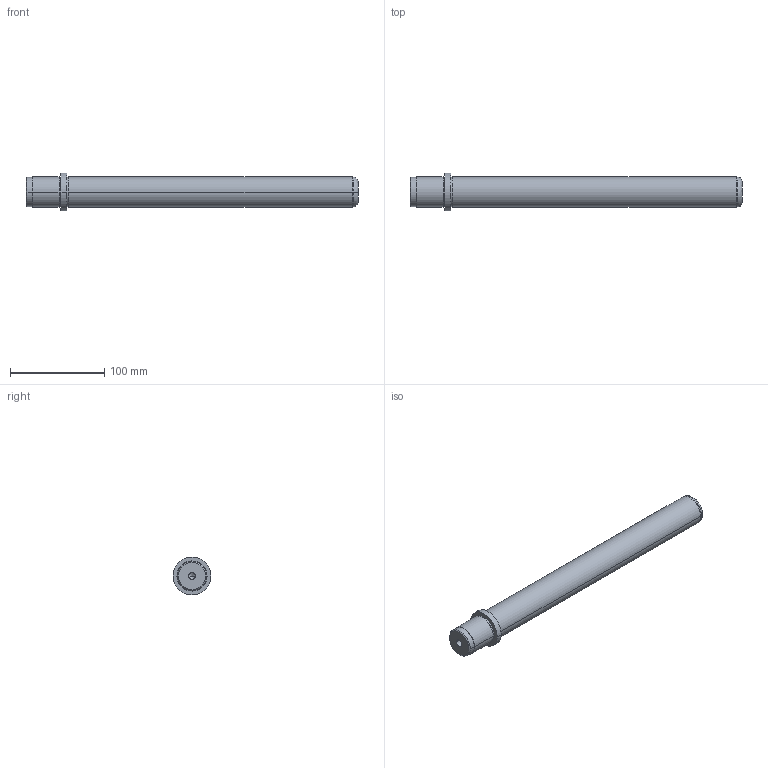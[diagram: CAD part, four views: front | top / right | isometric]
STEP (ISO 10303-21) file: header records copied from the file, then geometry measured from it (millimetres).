
FILE_DESCRIPTION( ( 'STEP AP203' ), '1' );
FILE_NAME( 'D:/Delta 3 D/D00/D00 - 32x315x37.step', '2003-01-02T07:06:13', ( ' ' ), ( ' ' ), 'XStep 1.0', ' ', ' ' );
FILE_SCHEMA( ( 'CONFIG_CONTROL_DESIGN' ) );
Length unit declared in the file: metre
Products named in the file (1): 1
Bounding box: 352 x 40 x 40 mm (x, y, z)
Volume: 282619.3 mm3; surface area: 39085.4 mm2
Topology: 1 solids, 1 shells, 39 faces, 78 edges, 48 vertices
Faces by surface type: revolution 28, bspline 11
Entity records: 1137 total; most frequent: CARTESIAN_POINT 277, DIRECTION 154, ORIENTED_EDGE 152, EDGE_CURVE 76, AXIS2_PLACEMENT_3D 49, EDGE_LOOP 48, VERTEX_POINT 48, CIRCLE 48
